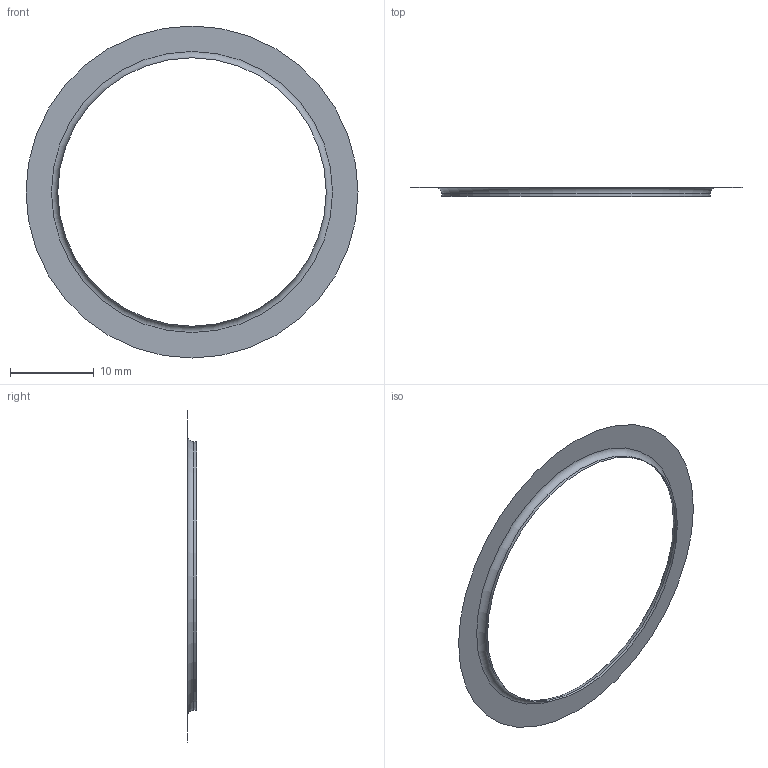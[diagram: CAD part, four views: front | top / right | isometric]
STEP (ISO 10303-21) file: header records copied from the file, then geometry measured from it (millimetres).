
FILE_DESCRIPTION(('BRL-CAD focused geometric regression fixture'),'2;1');
FILE_NAME('measured_native_periodic_boundary','2026-07-25T00:00:00',('BRL-CAD'),('BRL-CAD'),'','','');
FILE_SCHEMA(('AUTOMOTIVE_DESIGN { 1 0 10303 214 3 1 1 1 }'));
Length unit declared in the file: millimetre
Products named in the file (1): measured_native_periodic_boundary
Bounding box: 39.58 x 1.08 x 39.58 mm (x, y, z)
Surface area: 502.6 mm2 (no closed solid volume)
Topology: 0 solids, 1 shells, 3 faces, 6 edges, 4 vertices
Faces by surface type: torus 1, cylinder 1, plane 1
Full cylindrical faces by diameter (mm): 32 x1
Entity records: 81 total; most frequent: DIRECTION 14, CARTESIAN_POINT 11, AXIS2_PLACEMENT_3D 7, EDGE_LOOP 6, ORIENTED_EDGE 6, CIRCLE 4, VERTEX_POINT 4, EDGE_CURVE 4
